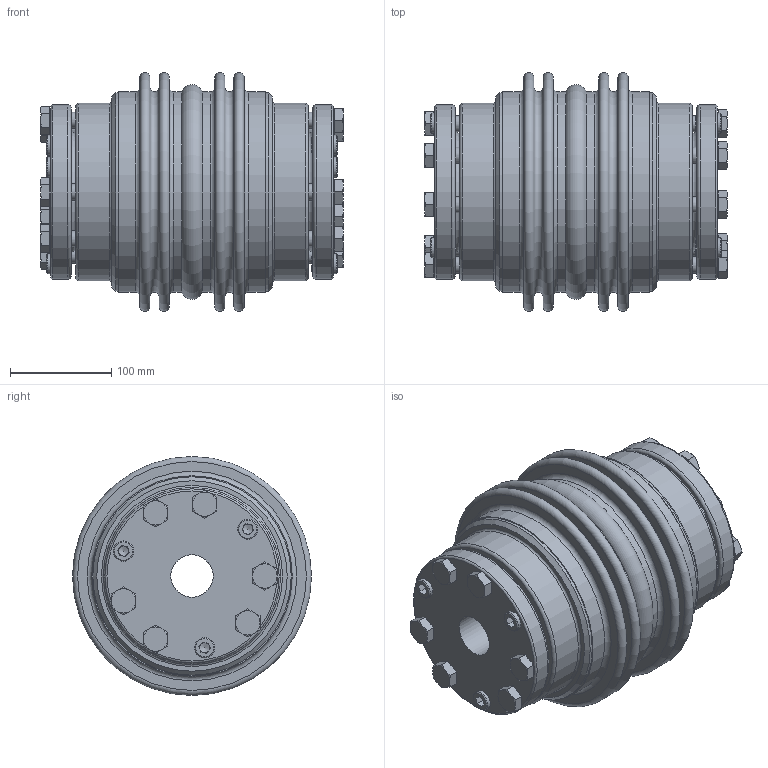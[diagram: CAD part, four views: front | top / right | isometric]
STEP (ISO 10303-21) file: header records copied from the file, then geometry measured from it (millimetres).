
FILE_DESCRIPTION(/* description */ ('Unknown','CAx-IF Rec.Pracs.---Representation and Presentation of Product Manufacturing Information (PMI)---4.0---2014-10-13','CAx-IF Rec.Pracs.---3D Tessellated Geometry---0.4---2014-09-14','2;1'),/* implementation_level */ '2;1');
FILE_NAME(/* name */ 'KSD 6000 2x2W',/* time_stamp */ '2024-07-22T10:05:43+02:00',/* author */ ('Unknown'),/* organization */ ('Unknown'),/* preprocessor_version */ 'ST-DEVELOPER v18.102',/* originating_system */ 'Solid Edge',/* authorisation */ 'Unknown');
FILE_SCHEMA (('AP242_MANAGED_MODEL_BASED_3D_ENGINEERING_MIM_LF { 1 0 10303 442 1 1 4 }'));
Length unit declared in the file: millimetre
Products named in the file (1): KSD 6000 2x2W
Bounding box: 298.9 x 236 x 236 mm (x, y, z)
Volume: 3551630.8 mm3; surface area: 683527.6 mm2
Topology: 1 solids, 13 shells, 614 faces, 1270 edges, 812 vertices
Faces by surface type: plane 252, cylinder 222, cone 106, torus 34
Full cylindrical faces by diameter (mm): 6.8 x68, 13.835 x12, 15 x6, 16 x12, 17 x12, 18.376 x6, 20 x6, 22.5 x12, 42 x2, 116 x2, 172 x2, 175 x2, 183 x2, 194 x4, 196 x2, 198 x4
Entity records: 21572 total; most frequent: CARTESIAN_POINT 5826, DIRECTION 2248, ORIENTED_EDGE 1928, FACE_BOUND 1018, EDGE_LOOP 1000, EDGE_CURVE 964, AXIS2_PLACEMENT_3D 964, VERTEX_POINT 746
